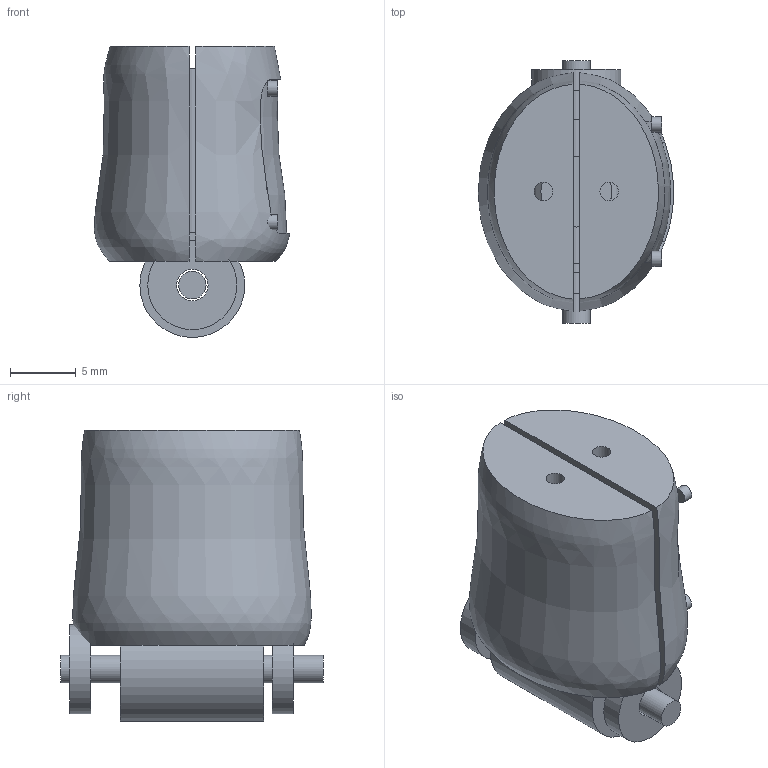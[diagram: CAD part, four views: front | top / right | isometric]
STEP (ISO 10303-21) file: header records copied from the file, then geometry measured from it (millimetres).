
FILE_DESCRIPTION(('FreeCAD Model'),'2;1');
FILE_NAME('Open CASCADE Shape Model','2026-10-05T09:23:00',('Author'),( ''),'Open CASCADE STEP processor 7.8','FreeCAD','Unknown');
FILE_SCHEMA(('AUTOMOTIVE_DESIGN { 1 0 10303 214 1 1 1 1 }'));
Length unit declared in the file: millimetre
Products named in the file (13): Export_thumb_proximal; thumb_proximalDorsalShell; thumb_proximalFlexorShell; thumb_proximalInsetPad; thumb_proximalCore; thumb_proximalHingeBarrel; thumb_proximalCheek-1; thumb_proximalCheek1; thumb_proximalPin; thumb_proximalScrew_-1_0.24; thumb_proximalScrew_-1_0.75; thumb_proximalScrew_1_0.24; thumb_proximalScrew_1_0.75
Assembly tree (12 placements, depth 2):
  Export_thumb_proximal
    thumb_proximalDorsalShell
    thumb_proximalFlexorShell
    thumb_proximalInsetPad
    thumb_proximalCore
    thumb_proximalHingeBarrel
    thumb_proximalCheek-1
    thumb_proximalCheek1
    thumb_proximalPin
    thumb_proximalScrew_-1_0.24
    thumb_proximalScrew_-1_0.75
    thumb_proximalScrew_1_0.24
    thumb_proximalScrew_1_0.75
Bounding box: 14.9 x 20 x 22.2 mm (x, y, z)
Volume: 3889 mm3; surface area: 3286.1 mm2
Topology: 12 solids, 12 shells, 83 faces, 150 edges, 90 vertices
Faces by surface type: plane 38, cylinder 34, sphere 8, bspline 3
Full cylindrical faces by diameter (mm): 0.464 x4, 1.16 x4, 1.4 x2, 2.1 x1, 2.4 x3, 5.4 x1, 6.8 x2, 8 x1
Entity records: 3106 total; most frequent: CARTESIAN_POINT 1318, DIRECTION 356, ORIENTED_EDGE 288, AXIS2_PLACEMENT_3D 153, EDGE_CURVE 144, FACE_BOUND 98, EDGE_LOOP 98, VERTEX_POINT 90
